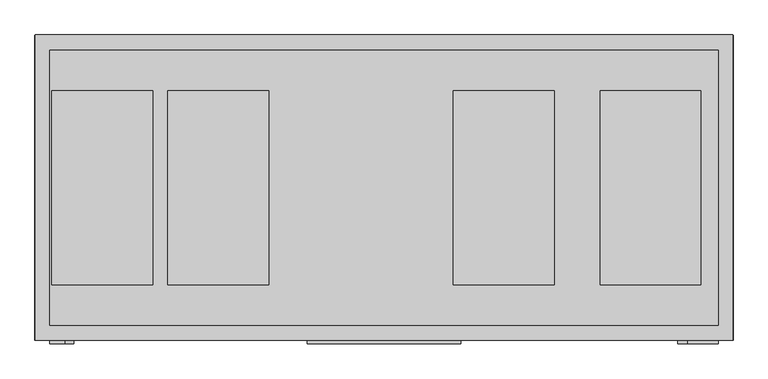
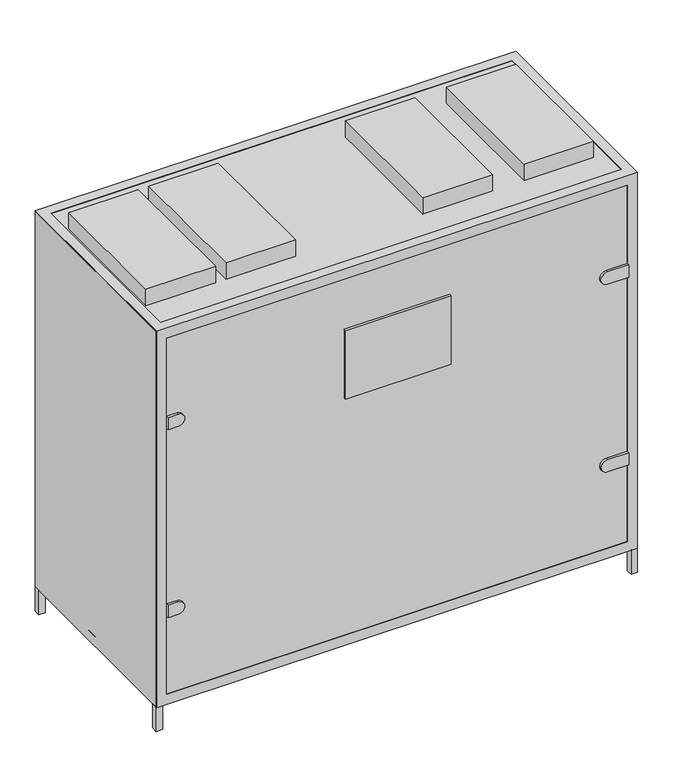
"""IFC4 building model written with IfcOpenShell, lengths in millimetres: proxy geometry, AVS 2200...3800-V-RC(RG) : AVS 2200-V-RC."""

import ifcopenshell
import ifcopenshell.guid

model = None  # the IFC model being written
_history = None  # IfcOwnerHistory: only IFC2X3 demands one
_inside = {}  # id of a spatial element -> (the spatial element, [elements in it])
_under = {}  # id of a project, library or spatial element -> (it, [spatial elements below it])
_declared = {}  # id of a project -> (the project, [libraries it declares])
_typed = {}  # id of a type object -> (the type object, [elements of that type])
_made_of = {}  # id of a material, layer set ... -> (it, [elements and type objects made of it])


def new_model(schema):
    """Start an empty IFC model of exactly this schema.

    Asked for "IFC4X3", IfcOpenShell would pick the latest addendum, in which some entities
    have other attributes; the version numbers below select the first issue.
    IFC2X3 requires an IfcOwnerHistory on every rooted entity: one is made here for all.
    """
    global model, _history
    if schema == "IFC4X3":
        model = ifcopenshell.file(schema_version=(4, 3, 0, 0))
    else:
        model = ifcopenshell.file(schema=schema)
    _inside.clear()
    _under.clear()
    _declared.clear()
    _typed.clear()
    _made_of.clear()
    _history = None
    if model.schema == "IFC2X3":
        org = make("IfcOrganization", Name="unknown")
        user = make(
            "IfcPersonAndOrganization",
            ThePerson=make("IfcPerson", FamilyName="unknown"),
            TheOrganization=org,
        )
        app = make(
            "IfcApplication",
            ApplicationDeveloper=org,
            Version="unknown",
            ApplicationFullName="unknown",
            ApplicationIdentifier="unknown",
        )
        _history = make(
            "IfcOwnerHistory",
            OwningUser=user,
            OwningApplication=app,
            ChangeAction="ADDED",
            CreationDate=0,
        )
    return model


def make(cls, **values):
    """One entity of the class cls with the attributes given. An attribute that is None is left unset."""
    return model.create_entity(
        cls, **{name: value for name, value in values.items() if value is not None}
    )


def rooted(cls, **values):
    """An entity with a GlobalId (a new one), such as an element, a storey or a relation."""
    return make(cls, GlobalId=ifcopenshell.guid.new(), OwnerHistory=_history, **values)


def si_unit(unit_type, name, prefix=None):
    """IfcSIUnit, for example si_unit("LENGTHUNIT", "METRE", prefix="MILLI")."""
    return make("IfcSIUnit", UnitType=unit_type, Prefix=prefix, Name=name)


def assignment(units):
    """IfcUnitAssignment: the units of a project."""
    return None if units is None else make("IfcUnitAssignment", Units=units)


def point(xyz):
    """IfcCartesianPoint."""
    return None if xyz is None else make("IfcCartesianPoint", Coordinates=xyz)


def direction(xyz):
    """IfcDirection."""
    return None if xyz is None else make("IfcDirection", DirectionRatios=xyz)


def frame(location, z_axis=None, x_axis=None):
    """IfcAxis2Placement3D, a coordinate frame: its origin and axes. An axis left out is left unset."""
    return make(
        "IfcAxis2Placement3D",
        Location=point(location),
        Axis=direction(z_axis),
        RefDirection=direction(x_axis),
    )


def frame_2d(location, x_axis=None):
    """IfcAxis2Placement2D, a coordinate frame in the plane: its origin and x axis."""
    return make(
        "IfcAxis2Placement2D", Location=point(location), RefDirection=direction(x_axis)
    )


def origin():
    """The frame at (0, 0, 0) with its axes left unset."""
    return frame((0.0, 0.0, 0.0))


def origin_with_axes():
    """The frame at (0, 0, 0) with the z axis (0, 0, 1) and the x axis (1, 0, 0) written out."""
    return frame((0.0, 0.0, 0.0), z_axis=(0.0, 0.0, 1.0), x_axis=(1.0, 0.0, 0.0))


def place(relative_to, where):
    """IfcLocalPlacement: puts the frame where relative to a parent placement (None: the world)."""
    return make(
        "IfcLocalPlacement", PlacementRelTo=relative_to, RelativePlacement=where
    )


def context(
    kind, dimensions, precision=None, world=None, true_north=None, identifier=None
):
    """IfcGeometricRepresentationContext, for example the 3D "Model" context."""
    return make(
        "IfcGeometricRepresentationContext",
        ContextIdentifier=identifier,
        ContextType=kind,
        CoordinateSpaceDimension=dimensions,
        Precision=precision,
        WorldCoordinateSystem=world,
        TrueNorth=true_north,
    )


def project(units=None, contexts=None):
    """IfcProject with its units and contexts."""
    return rooted(
        "IfcProject",
        Name="project",
        RepresentationContexts=contexts,
        UnitsInContext=assignment(units),
    )


def spatial(cls, under=None, at=None, **own):
    """A site, building, storey or space (cls), placed at a placement, below another one or the project."""
    s = rooted(cls, ObjectPlacement=at, **own)
    if under is not None:
        _under.setdefault(under.id(), (under, []))[1].append(s)
    return s


def polyline(points):
    """IfcPolyline through the points."""
    return make("IfcPolyline", Points=[point(p) for p in points])


def circle_curve(where, radius):
    """IfcCircle in the frame where."""
    return make("IfcCircle", Position=where, Radius=radius)


def trimmed(basis, trim1, trim2, sense, master):
    """IfcTrimmedCurve: the piece of a basis curve between two trims."""
    return make(
        "IfcTrimmedCurve",
        BasisCurve=basis,
        Trim1=trim1,
        Trim2=trim2,
        SenseAgreement=sense,
        MasterRepresentation=master,
    )


def segment(curve, same_sense, transition):
    """IfcCompositeCurveSegment."""
    return make(
        "IfcCompositeCurveSegment",
        Transition=transition,
        SameSense=same_sense,
        ParentCurve=curve,
    )


def composite_curve(segments, self_intersect=None):
    """IfcCompositeCurve: segments joined end to end."""
    return make("IfcCompositeCurve", Segments=segments, SelfIntersect=self_intersect)


def outline(outer, holes=None, kind="AREA"):
    """IfcArbitraryClosedProfileDef: a profile drawn as a closed curve; with holes, ...WithVoids."""
    if holes is None:
        return make("IfcArbitraryClosedProfileDef", ProfileType=kind, OuterCurve=outer)
    return make(
        "IfcArbitraryProfileDefWithVoids",
        ProfileType=kind,
        OuterCurve=outer,
        InnerCurves=holes,
    )


def extrude(swept, where, along, depth):
    """IfcExtrudedAreaSolid: the profile swept, set in the frame where, extruded along a direction by depth."""
    return make(
        "IfcExtrudedAreaSolid",
        SweptArea=swept,
        Position=where,
        ExtrudedDirection=direction(along),
        Depth=depth,
    )


def faces_of(points, faces, orient=None, outer=None):
    """IfcFace entities. A face is a list of loops; a loop is a list of indices into points, from 0.

    orient and outer hold one flag for each loop. By default every Orientation is true, the
    first loop of a face is its IfcFaceOuterBound and the others are IfcFaceBound.
    """
    made = []
    for i, loops in enumerate(faces):
        bounds = []
        for j, loop in enumerate(loops):
            is_outer = j == 0 if outer is None else outer[i][j]
            bounds.append(
                make(
                    "IfcFaceOuterBound" if is_outer else "IfcFaceBound",
                    Bound=make("IfcPolyLoop", Polygon=[points[k] for k in loop]),
                    Orientation=True if orient is None else orient[i][j],
                )
            )
        made.append(make("IfcFace", Bounds=bounds))
    return made


def faceted_brep(points, faces, orient=None, outer=None, voids=None):
    """IfcFacetedBrep: a solid bounded by flat faces; with voids (closed shells), ...WithVoids."""
    shared = [point(p) for p in points]
    hull = make("IfcClosedShell", CfsFaces=faces_of(shared, faces, orient, outer))
    if voids is None:
        return make("IfcFacetedBrep", Outer=hull)
    return make(
        "IfcFacetedBrepWithVoids",
        Outer=hull,
        Voids=[
            make(cls, CfsFaces=faces_of(shared, fs, o, b)) for cls, fs, o, b in voids
        ],
    )


def shape(context_of_items, identifier, shape_type, items):
    """IfcShapeRepresentation: the items that make up one representation, for example the "Body"."""
    return make(
        "IfcShapeRepresentation",
        ContextOfItems=context_of_items,
        RepresentationIdentifier=identifier,
        RepresentationType=shape_type,
        Items=items,
    )


def source(mapping_origin, context_of_items, identifier, shape_type, items):
    """IfcRepresentationMap: a shape defined once, which mapped items show again and again."""
    return make(
        "IfcRepresentationMap",
        MappingOrigin=mapping_origin,
        MappedRepresentation=shape(context_of_items, identifier, shape_type, items),
    )


def transform(
    local_origin,
    x_axis=None,
    y_axis=None,
    z_axis=None,
    scale=None,
    scale2=None,
    scale3=None,
    uniform=True,
):
    """IfcCartesianTransformationOperator3D, or its non-uniform kind. x_axis, y_axis, z_axis: its Axis1, 2, 3."""
    if uniform:
        return make(
            "IfcCartesianTransformationOperator3D",
            Axis1=direction(x_axis),
            Axis2=direction(y_axis),
            LocalOrigin=point(local_origin),
            Scale=scale,
            Axis3=direction(z_axis),
        )
    return make(
        "IfcCartesianTransformationOperator3DnonUniform",
        Axis1=direction(x_axis),
        Axis2=direction(y_axis),
        LocalOrigin=point(local_origin),
        Scale=scale,
        Axis3=direction(z_axis),
        Scale2=scale2,
        Scale3=scale3,
    )


def mapped(mapping_source, mapping_target):
    """IfcMappedItem: shows the shape of a source again, moved by a transform."""
    return make(
        "IfcMappedItem", MappingSource=mapping_source, MappingTarget=mapping_target
    )


def made_of(thing, what):
    """Note that an element or type object is made of a material, layer set ...; save() writes the relation."""
    if what is not None:
        _made_of.setdefault(what.id(), (what, []))[1].append(thing)
    return thing


def element(
    cls,
    number,
    at=None,
    inside=None,
    cuts=None,
    type_object=None,
    material=None,
    context=None,
    identifier="Body",
    shape_type=None,
    held_by="IfcProductDefinitionShape",
    body=None,
    shapes=None,
    **own,
):
    """One element of the class cls, such as IfcWall. Its Tag is "e" and its number.

    at: its placement. inside: the storey or other place that contains it. cuts: it is an
    opening in that element (IfcRelVoidsElement). A single representation is given by context,
    identifier, shape_type and body (its items); several are given by shapes. held_by: the class
    of the entity that holds the representations. save() writes the other relations.
    """
    e = rooted(cls, Tag="e%d" % number, ObjectPlacement=at, **own)
    if body is not None:
        shapes = [shape(context, identifier, shape_type, body)]
    if shapes is not None:
        e.Representation = make(held_by, Representations=shapes)
    if inside is not None:
        _inside.setdefault(inside.id(), (inside, []))[1].append(e)
    if cuts is not None:
        rooted(
            "IfcRelVoidsElement", RelatingBuildingElement=cuts, RelatedOpeningElement=e
        )
    if type_object is not None:
        _typed.setdefault(type_object.id(), (type_object, []))[1].append(e)
    return made_of(e, material)


def aggregate(whole, parts):
    """IfcRelAggregates: a whole, such as a stair, and the parts it consists of."""
    return rooted("IfcRelAggregates", RelatingObject=whole, RelatedObjects=parts)


def save(model, path):
    """Write the relations noted so far, then the file.

    IfcRelAggregates (storeys below a building ...), IfcRelContainedInSpatialStructure (elements
    in a storey), IfcRelDefinesByType, IfcRelAssociatesMaterial and IfcRelDeclares: one each for
    every whole, place, type object, material and project.
    """
    for whole, parts in _under.values():
        aggregate(whole, parts)
    for where, things in _inside.values():
        rooted(
            "IfcRelContainedInSpatialStructure",
            RelatedElements=things,
            RelatingStructure=where,
        )
    for kind, things in _typed.values():
        rooted("IfcRelDefinesByType", RelatedObjects=things, RelatingType=kind)
    for what, things in _made_of.values():
        rooted("IfcRelAssociatesMaterial", RelatedObjects=things, RelatingMaterial=what)
    for by, libraries in _declared.values():
        rooted("IfcRelDeclares", RelatingContext=by, RelatedDefinitions=libraries)
    model.write(path)


def mechanical_equipment_435d2f1d(model_context):
    return source(origin(), model_context, "Body", "SolidModel", [
        extrude(outline(polyline([(910.0, 408.0), (935.0, 408.0), (935.0, 383.0), (910.0, 383.0), (910.0, 408.0)])), origin_with_axes(), (0.0, 0.0, 1.0), 100.0),
        extrude(outline(polyline([(910.0, -408.0), (910.0, -383.0), (935.0, -383.0), (935.0, -408.0), (910.0, -408.0)])), origin_with_axes(), (0.0, 0.0, 1.0), 100.0),
        extrude(outline(polyline([(-935.0, 383.0), (-935.0, 408.0), (-910.0, 408.0), (-910.0, 383.0), (-935.0, 383.0)])), origin_with_axes(), (0.0, 0.0, 1.0), 100.0),
        extrude(outline(polyline([(-935.0, -383.0), (-910.0, -383.0), (-910.0, -408.0), (-935.0, -408.0), (-935.0, -383.0)])), origin_with_axes(), (0.0, 0.0, 1.0), 100.0),
        faceted_brep([(934.0, 409.0, 1643.0), (-934.0, 409.0, 1643.0), (-934.0, -409.0, 1643.0), (934.0, -409.0, 1643.0), (-895.0, 368.0, 1643.0), (20.0, 368.0, 1643.0), (895.0, 368.0, 1643.0), (895.0, -368.0, 1643.0), (20.0, -368.0, 1643.0), (-895.0, -368.0, 1643.0), (934.0, 409.0, 99.0), (934.0, -409.0, 99.0), (-934.0, -409.0, 99.0), (-934.0, 409.0, 99.0), (20.0, 368.0, 99.0), (-895.0, 368.0, 99.0), (-895.0, -368.0, 99.0), (20.0, -368.0, 99.0), (895.0, -368.0, 99.0), (895.0, 368.0, 99.0), (20.0, 409.0, 1602.0), (-895.0, 409.0, 1602.0), (-895.0, 409.0, 140.0), (20.0, 409.0, 140.0), (895.0, 409.0, 140.0), (895.0, 409.0, 1602.0), (-934.0, -368.0, 1602.0), (-934.0, -368.0, 140.0), (-934.0, 368.0, 140.0), (-934.0, 368.0, 1602.0), (-895.0, -409.0, 1602.0), (20.0, -409.0, 1602.0), (895.0, -409.0, 1602.0), (895.0, -409.0, 140.0), (20.0, -409.0, 140.0), (-895.0, -409.0, 140.0), (-895.0, 368.0, 1602.0), (20.0, 368.0, 1602.0), (20.0, 368.0, 140.0), (-895.0, 368.0, 140.0), (20.0, -368.0, 1602.0), (-895.0, -368.0, 1602.0), (-895.0, -368.0, 140.0), (20.0, -368.0, 140.0), (895.0, 368.0, 1602.0), (895.0, 368.0, 140.0), (895.0, -368.0, 140.0), (895.0, -368.0, 1602.0), (866.0, 368.0, 1602.0), (866.0, 368.0, 140.0), (866.0, -368.0, 1602.0), (866.0, -368.0, 140.0)], [[[0, 1, 2, 3], [4, 5, 6, 7, 8, 9]], [[10, 11, 12, 13], [14, 15, 16, 17, 18, 19]], [[1, 0, 10, 13], [20, 21, 22, 23, 24, 25]], [[2, 1, 13, 12], [26, 27, 28, 29]], [[3, 2, 12, 11], [30, 31, 32, 33, 34, 35]], [[0, 3, 11, 10]], [[5, 4, 36, 37]], [[15, 14, 38, 39]], [[9, 8, 40, 41]], [[17, 16, 42, 43]], [[7, 6, 44, 25, 24, 45, 19, 18, 46, 33, 32, 47]], [[30, 41, 40, 31]], [[20, 37, 36, 21]], [[42, 35, 34, 43]], [[38, 23, 22, 39]], [[26, 41, 42, 27]], [[39, 28, 27, 42]], [[36, 29, 28, 39]], [[29, 36, 41, 26]], [[4, 9, 41, 36]], [[16, 15, 39, 42]], [[41, 30, 35, 42]], [[21, 36, 39, 22]], [[6, 5, 37, 48, 44]], [[14, 19, 45, 49, 38]], [[8, 7, 47, 50, 40]], [[18, 17, 43, 51, 46]], [[47, 32, 31, 40, 50]], [[37, 20, 25, 44, 48]], [[33, 46, 51, 43, 34]], [[23, 38, 49, 45, 24]]]),
        extrude(outline(polyline([(-935.0, 408.0), (935.0, 408.0), (935.0, -408.0), (-935.0, -408.0), (-935.0, 408.0)])), frame((0.0, 0.0, 100.0), z_axis=(0.0, 0.0, 1.0), x_axis=(1.0, 0.0, 0.0)), (0.0, 0.0, 1.0), 1542.0),
        extrude(outline(polyline([(-620.0, 260.0), (-620.0, -260.0), (-890.0, -260.0), (-890.0, 260.0), (-620.0, 260.0)])), frame((0.0, 0.0, 1642.0), z_axis=(0.0, 0.0, 1.0), x_axis=(1.0, 0.0, 0.0)), (0.0, 0.0, 1.0), 68.0),
        extrude(outline(polyline([(-309.0, 260.0), (-309.0, -260.0), (-579.0, -260.0), (-579.0, 260.0), (-309.0, 260.0)])), frame((0.0, 0.0, 1642.0), z_axis=(0.0, 0.0, 1.0), x_axis=(1.0, 0.0, 0.0)), (0.0, 0.0, 1.0), 68.0),
        extrude(outline(polyline([(456.0, 260.0), (456.0, -260.0), (186.0, -260.0), (186.0, 260.0), (456.0, 260.0)])), frame((0.0, 0.0, 1642.0), z_axis=(0.0, 0.0, 1.0), x_axis=(1.0, 0.0, 0.0)), (0.0, 0.0, 1.0), 68.0),
        extrude(outline(polyline([(849.0, 260.0), (849.0, -260.0), (579.0, -260.0), (579.0, 260.0), (849.0, 260.0)])), frame((0.0, 0.0, 1642.0), z_axis=(0.0, 0.0, 1.0), x_axis=(1.0, 0.0, 0.0)), (0.0, 0.0, 1.0), 68.0),
        extrude(outline(composite_curve([segment(polyline([(1281.5, -855.2895396), (1281.5, -895.0), (1231.5, -895.0), (1231.5, -855.2895396)]), True, "CONTINUOUS"), segment(trimmed(circle_curve(frame_2d((1256.5, -855.2895396)), 25.0), [point((1231.5, -855.2895396))], [point((1281.5, -855.2895396))], False, "CARTESIAN"), True, "CONTINUOUS")], self_intersect=False)), frame((0.0, -418.0, 0.0), z_axis=(0.0, 1.0, 0.0), x_axis=(0.0, 0.0, 1.0)), (0.0, 0.0, 1.0), 10.0),
        extrude(outline(composite_curve([segment(polyline([(510.5, -855.2895396), (510.5, -895.0), (460.5, -895.0), (460.5, -855.2895396)]), True, "CONTINUOUS"), segment(trimmed(circle_curve(frame_2d((485.5, -855.2895396)), 25.0), [point((460.5, -855.2895396))], [point((510.5, -855.2895396))], False, "CARTESIAN"), True, "CONTINUOUS")], self_intersect=False)), frame((0.0, -418.0, 0.0), z_axis=(0.0, 1.0, 0.0), x_axis=(0.0, 0.0, 1.0)), (0.0, 0.0, 1.0), 10.0),
        extrude(outline(polyline([(205.159373, -418.0), (-205.159373, -418.0), (-205.159373, -408.0), (205.159373, -408.0), (205.159373, -418.0)])), frame((0.0, 0.0, 1115.8090991), z_axis=(0.0, 0.0, 1.0), x_axis=(1.0, 0.0, 0.0)), (0.0, 0.0, 1.0), 281.3818018),
        extrude(outline(composite_curve([segment(trimmed(circle_curve(frame_2d((1256.5, 812.2895396)), 25.0), [point((1281.5, 812.2895396))], [point((1231.5, 812.2895396))], False, "CARTESIAN"), True, "CONTINUOUS"), segment(polyline([(1231.5, 812.2895396), (1231.5, 895.0), (1281.5, 895.0), (1281.5, 812.2895396)]), True, "CONTINUOUS")], self_intersect=False)), frame((0.0, -418.0, 0.0), z_axis=(0.0, 1.0, 0.0), x_axis=(0.0, 0.0, 1.0)), (0.0, 0.0, 1.0), 10.0),
        extrude(outline(composite_curve([segment(trimmed(circle_curve(frame_2d((485.5, 812.2895396)), 25.0), [point((510.5, 812.2895396))], [point((460.5, 812.2895396))], False, "CARTESIAN"), True, "CONTINUOUS"), segment(polyline([(460.5, 812.2895396), (460.5, 895.0), (510.5, 895.0), (510.5, 812.2895396)]), True, "CONTINUOUS")], self_intersect=False)), frame((0.0, -418.0, 0.0), z_axis=(0.0, 1.0, 0.0), x_axis=(0.0, 0.0, 1.0)), (0.0, 0.0, 1.0), 10.0),
    ])


if __name__ == "__main__":
    model = new_model("IFC4")
    model_context = context("Model", 3, world=origin())
    ifc_project = project(units=[si_unit("LENGTHUNIT", "METRE", prefix="MILLI")], contexts=[model_context])
    site = spatial("IfcSite", under=ifc_project)
    building = spatial("IfcBuilding", under=site)
    placement = place(None, origin())
    mechanical_equipment_shape = mechanical_equipment_435d2f1d(model_context)
    element("IfcBuildingElementProxy", 1, Name="AVS 2200...3800-V-RC(RG) : AVS 2200-V-RC", ObjectType="AVS 2200...3800-V-RC(RG) : AVS 2200-V-RC", at=placement, inside=building, context=model_context, shape_type="MappedRepresentation", body=[
        mapped(mechanical_equipment_shape, transform((0.0, 0.0, 0.0), x_axis=(1.0, 0.0, 0.0), y_axis=(0.0, 1.0, 0.0), z_axis=(0.0, 0.0, 1.0))),
    ])
    save(model, "model.ifc")
